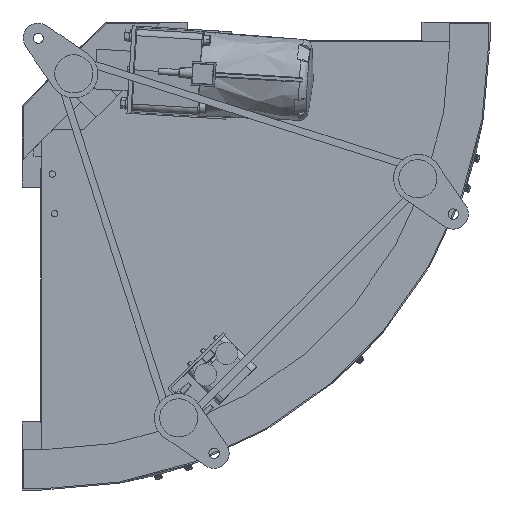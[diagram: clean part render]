
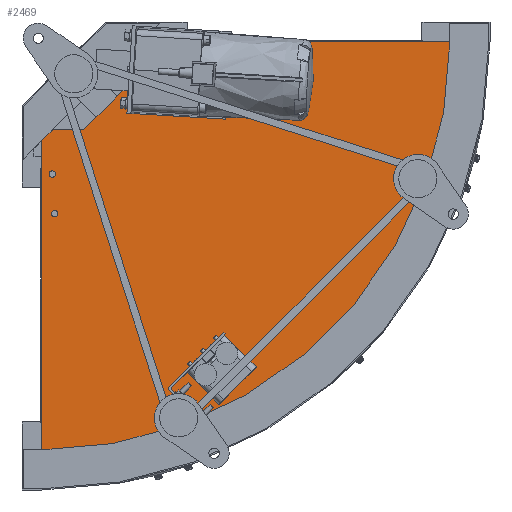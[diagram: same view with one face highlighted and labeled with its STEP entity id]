
A CAD part, front view. The second image highlights one B-rep face of the part: STEP entity #2469.
In plain terms, the highlighted planar face has unit normal (0, -1, 0).
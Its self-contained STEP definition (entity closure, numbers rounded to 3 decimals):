
#2469=ADVANCED_FACE('',(#7139,#7140,#7141,#7142,#7143),#7138,.F.);
#7138=PLANE('',#12466);
#7139=FACE_OUTER_BOUND('',#12467,.T.);
#7140=FACE_BOUND('',#12468,.T.);
#7141=FACE_BOUND('',#12469,.T.);
#7142=FACE_BOUND('',#12470,.T.);
#7143=FACE_BOUND('',#12471,.T.);
#12463=CARTESIAN_POINT('',(-10.,-142.5,-522.5));
#12464=DIRECTION('',(0.,1.,0.));
#12465=DIRECTION('',(0.,0.,1.));
#12466=AXIS2_PLACEMENT_3D('',#12463,#12464,#12465);
#12467=EDGE_LOOP('',(#16548,#16549,#16550,#16551,#16552,#16553,#16554,#16555));
#12468=EDGE_LOOP('',(#16556));
#12469=EDGE_LOOP('',(#16557));
#12470=EDGE_LOOP('',(#16558));
#12471=EDGE_LOOP('',(#16559));
#16548=ORIENTED_EDGE('',*,*,#19242,.F.);
#16549=ORIENTED_EDGE('',*,*,#19243,.F.);
#16550=ORIENTED_EDGE('',*,*,#19244,.F.);
#16551=ORIENTED_EDGE('',*,*,#19234,.F.);
#16552=ORIENTED_EDGE('',*,*,#19215,.F.);
#16553=ORIENTED_EDGE('',*,*,#19219,.F.);
#16554=ORIENTED_EDGE('',*,*,#19245,.F.);
#16555=ORIENTED_EDGE('',*,*,#19246,.F.);
#16556=ORIENTED_EDGE('',*,*,#19239,.F.);
#16557=ORIENTED_EDGE('',*,*,#19236,.F.);
#16558=ORIENTED_EDGE('',*,*,#19247,.F.);
#16559=ORIENTED_EDGE('',*,*,#19248,.F.);
#19215=EDGE_CURVE('',#29044,#29037,#29051,.T.);
#19219=EDGE_CURVE('',#29071,#29044,#29078,.T.);
#19234=EDGE_CURVE('',#29037,#29173,#29174,.T.);
#19236=EDGE_CURVE('',#29186,#29186,#29187,.T.);
#19239=EDGE_CURVE('',#29206,#29206,#29207,.T.);
#19242=EDGE_CURVE('',#29226,#29227,#29228,.T.);
#19243=EDGE_CURVE('',#29234,#29226,#29235,.T.);
#19244=EDGE_CURVE('',#29173,#29234,#29241,.T.);
#19245=EDGE_CURVE('',#29247,#29071,#29248,.T.);
#19246=EDGE_CURVE('',#29227,#29247,#29254,.T.);
#19247=EDGE_CURVE('',#29260,#29260,#29261,.T.);
#19248=EDGE_CURVE('',#29267,#29267,#29268,.T.);
#29037=VERTEX_POINT('',#41073);
#29044=VERTEX_POINT('',#41077);
#29051=CIRCLE('',#41084,512.5);
#29071=VERTEX_POINT('',#41093);
#29078=LINE('',#41097,#41098);
#29173=VERTEX_POINT('',#41148);
#29174=LINE('',#41149,#41150);
#29186=VERTEX_POINT('',#41155);
#29187=CIRCLE('',#41159,4.);
#29206=VERTEX_POINT('',#41167);
#29207=CIRCLE('',#41171,4.);
#29226=VERTEX_POINT('',#41179);
#29227=VERTEX_POINT('',#41180);
#29228=LINE('',#41181,#41182);
#29234=VERTEX_POINT('',#41184);
#29235=LINE('',#41185,#41186);
#29241=LINE('',#41188,#41189);
#29247=VERTEX_POINT('',#41191);
#29248=LINE('',#41192,#41193);
#29254=LINE('',#41195,#41196);
#29260=VERTEX_POINT('',#41198);
#29261=CIRCLE('',#41202,4.);
#29267=VERTEX_POINT('',#41203);
#29268=CIRCLE('',#41207,4.);
#41073=CARTESIAN_POINT('',(0.,-142.5,-512.5));
#41077=CARTESIAN_POINT('',(512.5,-142.5,0.));
#41081=CARTESIAN_POINT('',(0.,-142.5,0.));
#41082=DIRECTION('',(0.,1.,0.));
#41083=DIRECTION('',(0.,0.,-1.));
#41084=AXIS2_PLACEMENT_3D('',#41081,#41082,#41083);
#41093=CARTESIAN_POINT('',(124.,-142.5,0.));
#41097=CARTESIAN_POINT('',(124.,-142.5,0.));
#41098=VECTOR('',#41099,388.5);
#41099=DIRECTION('',(1.,0.,0.));
#41148=CARTESIAN_POINT('',(0.,-142.5,-124.));
#41149=CARTESIAN_POINT('',(0.,-142.5,-512.5));
#41150=VECTOR('',#41151,388.5);
#41151=DIRECTION('',(0.,0.,1.));
#41155=CARTESIAN_POINT('',(13.,-142.5,-162.));
#41156=CARTESIAN_POINT('',(13.,-142.5,-166.));
#41157=DIRECTION('',(0.,-1.,0.));
#41158=DIRECTION('',(0.,0.,1.));
#41159=AXIS2_PLACEMENT_3D('',#41156,#41157,#41158);
#41167=CARTESIAN_POINT('',(16.,-142.5,-211.91));
#41168=CARTESIAN_POINT('',(16.,-142.5,-215.91));
#41169=DIRECTION('',(0.,-1.,0.));
#41170=DIRECTION('',(0.,0.,1.));
#41171=AXIS2_PLACEMENT_3D('',#41168,#41169,#41170);
#41179=CARTESIAN_POINT('',(52.635,-142.5,-110.));
#41180=CARTESIAN_POINT('',(110.,-142.5,-52.635));
#41181=CARTESIAN_POINT('',(52.635,-142.5,-110.));
#41182=VECTOR('',#41183,81.127);
#41183=DIRECTION('',(0.707,0.,0.707));
#41184=CARTESIAN_POINT('',(14.,-142.5,-110.));
#41185=CARTESIAN_POINT('',(14.,-142.5,-110.));
#41186=VECTOR('',#41187,38.635);
#41187=DIRECTION('',(1.,0.,0.));
#41188=CARTESIAN_POINT('',(0.,-142.5,-124.));
#41189=VECTOR('',#41190,19.799);
#41190=DIRECTION('',(0.707,0.,0.707));
#41191=CARTESIAN_POINT('',(110.,-142.5,-14.));
#41192=CARTESIAN_POINT('',(110.,-142.5,-14.));
#41193=VECTOR('',#41194,19.799);
#41194=DIRECTION('',(0.707,0.,0.707));
#41195=CARTESIAN_POINT('',(110.,-142.5,-52.635));
#41196=VECTOR('',#41197,38.635);
#41197=DIRECTION('',(0.,0.,1.));
#41198=CARTESIAN_POINT('',(166.,-142.5,-17.));
#41199=CARTESIAN_POINT('',(166.,-142.5,-13.));
#41200=DIRECTION('',(0.,-1.,0.));
#41201=DIRECTION('',(0.,0.,-1.));
#41202=AXIS2_PLACEMENT_3D('',#41199,#41200,#41201);
#41203=CARTESIAN_POINT('',(215.91,-142.5,-20.));
#41204=CARTESIAN_POINT('',(215.91,-142.5,-16.));
#41205=DIRECTION('',(0.,-1.,0.));
#41206=DIRECTION('',(0.,0.,-1.));
#41207=AXIS2_PLACEMENT_3D('',#41204,#41205,#41206);
